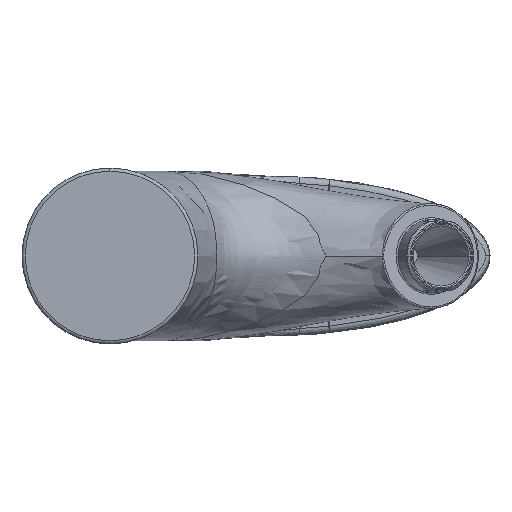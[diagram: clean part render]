
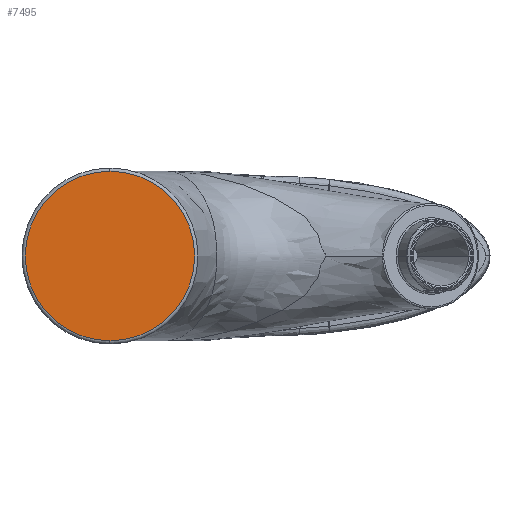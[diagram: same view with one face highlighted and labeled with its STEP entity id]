
A CAD part, front view. The second image highlights one B-rep face of the part: STEP entity #7495.
In plain terms, the highlighted planar face has unit normal (0, -1, 0).
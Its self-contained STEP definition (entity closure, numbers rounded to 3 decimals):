
#300 = FACE_OUTER_BOUND ( 'NONE', #3503, .T. ) ;
#421 = DIRECTION ( 'NONE',  ( 0., 0., 1. ) ) ;
#517 = CARTESIAN_POINT ( 'NONE',  ( 0., -6., 0. ) ) ;
#1126 = DIRECTION ( 'NONE',  ( 0., 0., 1. ) ) ;
#1241 = DIRECTION ( 'NONE',  ( 0., 0., 1. ) ) ;
#1400 = EDGE_CURVE ( 'NONE', #6382, #7140, #5098, .T. ) ;
#1603 = AXIS2_PLACEMENT_3D ( 'NONE', #3660, #4883, #1241 ) ;
#1844 = PLANE ( 'NONE',  #1603 ) ;
#2761 = ORIENTED_EDGE ( 'NONE', *, *, #4823, .T. ) ;
#3446 = CIRCLE ( 'NONE', #3724, 26.5 ) ;
#3503 = EDGE_LOOP ( 'NONE', ( #6817, #2761 ) ) ;
#3660 = CARTESIAN_POINT ( 'NONE',  ( 0., -6., 0. ) ) ;
#3724 = AXIS2_PLACEMENT_3D ( 'NONE', #517, #4760, #1126 ) ;
#4224 = DIRECTION ( 'NONE',  ( 0., -1., 0. ) ) ;
#4429 = CARTESIAN_POINT ( 'NONE',  ( 0., -6., 26.5 ) ) ;
#4760 = DIRECTION ( 'NONE',  ( 0., -1., 0. ) ) ;
#4823 = EDGE_CURVE ( 'NONE', #7140, #6382, #3446, .T. ) ;
#4883 = DIRECTION ( 'NONE',  ( 0., 1., 0. ) ) ;
#4927 = AXIS2_PLACEMENT_3D ( 'NONE', #5602, #4224, #421 ) ;
#5098 = CIRCLE ( 'NONE', #4927, 26.5 ) ;
#5585 = CARTESIAN_POINT ( 'NONE',  ( 0., -6., -26.5 ) ) ;
#5602 = CARTESIAN_POINT ( 'NONE',  ( 0., -6., 0. ) ) ;
#6382 = VERTEX_POINT ( 'NONE', #4429 ) ;
#6817 = ORIENTED_EDGE ( 'NONE', *, *, #1400, .T. ) ;
#7140 = VERTEX_POINT ( 'NONE', #5585 ) ;
#7495 = ADVANCED_FACE ( 'NONE', ( #300 ), #1844, .F. ) ;
